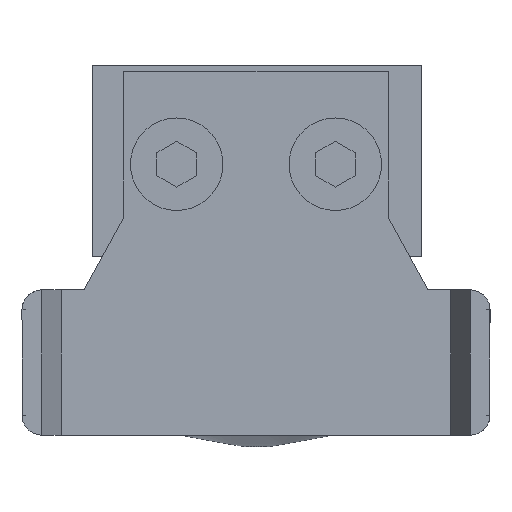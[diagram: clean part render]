
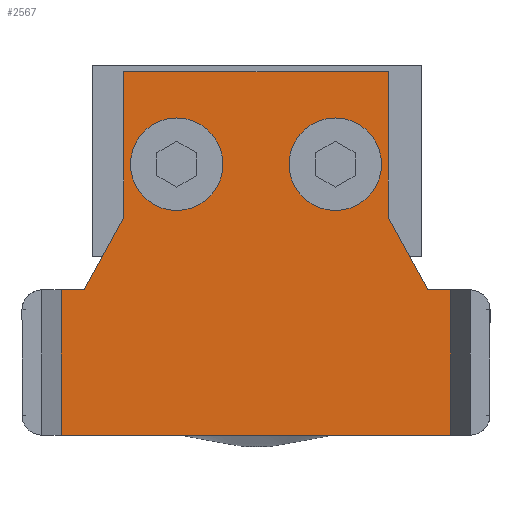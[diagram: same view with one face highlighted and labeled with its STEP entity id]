
A CAD part, left-side view. The second image highlights one B-rep face of the part: STEP entity #2567.
In plain terms, the highlighted planar face has unit normal (-1, 0, 0).
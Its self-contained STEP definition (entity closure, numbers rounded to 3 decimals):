
#35 = AXIS2_PLACEMENT_3D ( 'NONE', #3754, #4839, #3799 ) ;
#80 = DIRECTION ( 'NONE',  ( -1., 0., 0. ) ) ;
#142 = ORIENTED_EDGE ( 'NONE', *, *, #1404, .T. ) ;
#186 = LINE ( 'NONE', #2438, #2791 ) ;
#248 = EDGE_CURVE ( 'NONE', #6235, #1716, #6112, .T. ) ;
#391 = FACE_OUTER_BOUND ( 'NONE', #4153, .T. ) ;
#441 = DIRECTION ( 'NONE',  ( -1., 0., 0. ) ) ;
#461 = CARTESIAN_POINT ( 'NONE',  ( 4., 0., 14.744 ) ) ;
#558 = ORIENTED_EDGE ( 'NONE', *, *, #5215, .F. ) ;
#712 = CARTESIAN_POINT ( 'NONE',  ( 4., 9.5, 6. ) ) ;
#772 = EDGE_CURVE ( 'NONE', #4122, #966, #1483, .T. ) ;
#892 = VERTEX_POINT ( 'NONE', #3172 ) ;
#933 = CARTESIAN_POINT ( 'NONE',  ( 4., 16.5, -10. ) ) ;
#966 = VERTEX_POINT ( 'NONE', #4700 ) ;
#1008 = VERTEX_POINT ( 'NONE', #2702 ) ;
#1101 = DIRECTION ( 'NONE',  ( 0., 0.878, -0.479 ) ) ;
#1120 = ORIENTED_EDGE ( 'NONE', *, *, #6540, .T. ) ;
#1289 = DIRECTION ( 'NONE',  ( 0., -1., 0. ) ) ;
#1324 = DIRECTION ( 'NONE',  ( 0., 0., 1. ) ) ;
#1350 = DIRECTION ( 'NONE',  ( 0., 0., -1. ) ) ;
#1386 = VECTOR ( 'NONE', #2403, 1000. ) ;
#1391 = CARTESIAN_POINT ( 'NONE',  ( 4., 5.5, 10. ) ) ;
#1404 = EDGE_CURVE ( 'NONE', #5434, #1008, #6508, .T. ) ;
#1483 = LINE ( 'NONE', #5347, #4921 ) ;
#1527 = DIRECTION ( 'NONE',  ( 0., 1., 0. ) ) ;
#1598 = VECTOR ( 'NONE', #6843, 1000. ) ;
#1649 = DIRECTION ( 'NONE',  ( 0., 0., -1. ) ) ;
#1674 = PLANE ( 'NONE',  #2408 ) ;
#1702 = ORIENTED_EDGE ( 'NONE', *, *, #2985, .F. ) ;
#1716 = VERTEX_POINT ( 'NONE', #6134 ) ;
#1723 = CARTESIAN_POINT ( 'NONE',  ( 4., -11., 14.744 ) ) ;
#1969 = CIRCLE ( 'NONE', #3189, 3.5 ) ;
#2026 = DIRECTION ( 'NONE',  ( 0., 0., -1. ) ) ;
#2043 = ORIENTED_EDGE ( 'NONE', *, *, #2784, .F. ) ;
#2168 = VERTEX_POINT ( 'NONE', #6841 ) ;
#2173 = ORIENTED_EDGE ( 'NONE', *, *, #6023, .T. ) ;
#2291 = LINE ( 'NONE', #461, #6385 ) ;
#2309 = ORIENTED_EDGE ( 'NONE', *, *, #2441, .F. ) ;
#2403 = DIRECTION ( 'NONE',  ( 0., 0., -1. ) ) ;
#2408 = AXIS2_PLACEMENT_3D ( 'NONE', #2666, #2692, #1649 ) ;
#2424 = CARTESIAN_POINT ( 'NONE',  ( 4., -11., -14.744 ) ) ;
#2438 = CARTESIAN_POINT ( 'NONE',  ( 4., 5.5, -10. ) ) ;
#2441 = EDGE_CURVE ( 'NONE', #5944, #2168, #4485, .T. ) ;
#2567 = ADVANCED_FACE ( 'NONE', ( #391, #4982, #6575 ), #1674, .F. ) ;
#2666 = CARTESIAN_POINT ( 'NONE',  ( 4., 0., 0. ) ) ;
#2692 = DIRECTION ( 'NONE',  ( 1., 0., 0. ) ) ;
#2702 = CARTESIAN_POINT ( 'NONE',  ( 4., 0., -13. ) ) ;
#2784 = EDGE_CURVE ( 'NONE', #892, #4145, #5729, .T. ) ;
#2791 = VECTOR ( 'NONE', #1289, 1000. ) ;
#2985 = EDGE_CURVE ( 'NONE', #4145, #892, #1969, .T. ) ;
#3006 = EDGE_CURVE ( 'NONE', #5695, #5778, #4071, .T. ) ;
#3026 = EDGE_CURVE ( 'NONE', #6235, #3296, #3237, .T. ) ;
#3066 = CARTESIAN_POINT ( 'NONE',  ( 4., 16.5, 10. ) ) ;
#3141 = AXIS2_PLACEMENT_3D ( 'NONE', #5270, #441, #2026 ) ;
#3172 = CARTESIAN_POINT ( 'NONE',  ( 4., 9.5, -9.5 ) ) ;
#3189 = AXIS2_PLACEMENT_3D ( 'NONE', #6156, #6678, #1350 ) ;
#3215 = ORIENTED_EDGE ( 'NONE', *, *, #772, .F. ) ;
#3237 = LINE ( 'NONE', #6105, #6317 ) ;
#3296 = VERTEX_POINT ( 'NONE', #1723 ) ;
#3410 = DIRECTION ( 'NONE',  ( 0., 1., 0. ) ) ;
#3754 = CARTESIAN_POINT ( 'NONE',  ( 4., 9.5, -6. ) ) ;
#3799 = DIRECTION ( 'NONE',  ( 0., 0., -1. ) ) ;
#3850 = ORIENTED_EDGE ( 'NONE', *, *, #4672, .T. ) ;
#3904 = AXIS2_PLACEMENT_3D ( 'NONE', #712, #80, #4453 ) ;
#4045 = CARTESIAN_POINT ( 'NONE',  ( 4., 9.5, -2.5 ) ) ;
#4071 = LINE ( 'NONE', #4528, #1386 ) ;
#4122 = VERTEX_POINT ( 'NONE', #6699 ) ;
#4145 = VERTEX_POINT ( 'NONE', #4045 ) ;
#4153 = EDGE_LOOP ( 'NONE', ( #4726, #558, #3215, #2173, #1120, #6169, #3850, #142, #4736, #4588 ) ) ;
#4174 = DIRECTION ( 'NONE',  ( 0., -1., 0. ) ) ;
#4362 = EDGE_LOOP ( 'NONE', ( #2309, #6316 ) ) ;
#4429 = CARTESIAN_POINT ( 'NONE',  ( 4., 0., -14.744 ) ) ;
#4453 = DIRECTION ( 'NONE',  ( 0., 0., -1. ) ) ;
#4484 = EDGE_LOOP ( 'NONE', ( #2043, #1702 ) ) ;
#4485 = CIRCLE ( 'NONE', #3141, 3.5 ) ;
#4522 = EDGE_CURVE ( 'NONE', #2168, #5944, #4543, .T. ) ;
#4528 = CARTESIAN_POINT ( 'NONE',  ( 4., 16.5, -10. ) ) ;
#4543 = CIRCLE ( 'NONE', #3904, 3.5 ) ;
#4588 = ORIENTED_EDGE ( 'NONE', *, *, #248, .F. ) ;
#4672 = EDGE_CURVE ( 'NONE', #5778, #5434, #186, .T. ) ;
#4691 = LINE ( 'NONE', #6326, #1598 ) ;
#4700 = CARTESIAN_POINT ( 'NONE',  ( 4., 0., 14.744 ) ) ;
#4726 = ORIENTED_EDGE ( 'NONE', *, *, #3026, .T. ) ;
#4736 = ORIENTED_EDGE ( 'NONE', *, *, #6507, .F. ) ;
#4746 = CARTESIAN_POINT ( 'NONE',  ( 4., 9.5, 2.5 ) ) ;
#4838 = VERTEX_POINT ( 'NONE', #1391 ) ;
#4839 = DIRECTION ( 'NONE',  ( -1., 0., 0. ) ) ;
#4921 = VECTOR ( 'NONE', #5888, 1000. ) ;
#4924 = DIRECTION ( 'NONE',  ( 0., -0.878, -0.479 ) ) ;
#4982 = FACE_BOUND ( 'NONE', #4484, .T. ) ;
#5202 = LINE ( 'NONE', #5367, #6539 ) ;
#5215 = EDGE_CURVE ( 'NONE', #966, #3296, #2291, .T. ) ;
#5270 = CARTESIAN_POINT ( 'NONE',  ( 4., 9.5, 6. ) ) ;
#5327 = VECTOR ( 'NONE', #4924, 1000. ) ;
#5347 = CARTESIAN_POINT ( 'NONE',  ( 4., 0., 0. ) ) ;
#5357 = VECTOR ( 'NONE', #1527, 1000. ) ;
#5367 = CARTESIAN_POINT ( 'NONE',  ( 4., 5.5, 10. ) ) ;
#5434 = VERTEX_POINT ( 'NONE', #5481 ) ;
#5481 = CARTESIAN_POINT ( 'NONE',  ( 4., 5.5, -10. ) ) ;
#5673 = VECTOR ( 'NONE', #3410, 1000. ) ;
#5695 = VERTEX_POINT ( 'NONE', #3066 ) ;
#5729 = CIRCLE ( 'NONE', #35, 3.5 ) ;
#5778 = VERTEX_POINT ( 'NONE', #933 ) ;
#5888 = DIRECTION ( 'NONE',  ( 0., 0., 1. ) ) ;
#5944 = VERTEX_POINT ( 'NONE', #4746 ) ;
#6023 = EDGE_CURVE ( 'NONE', #4122, #4838, #5202, .T. ) ;
#6105 = CARTESIAN_POINT ( 'NONE',  ( 4., -11., 20. ) ) ;
#6112 = LINE ( 'NONE', #4429, #5673 ) ;
#6134 = CARTESIAN_POINT ( 'NONE',  ( 4., 0., -14.744 ) ) ;
#6156 = CARTESIAN_POINT ( 'NONE',  ( 4., 9.5, -6. ) ) ;
#6169 = ORIENTED_EDGE ( 'NONE', *, *, #3006, .T. ) ;
#6235 = VERTEX_POINT ( 'NONE', #2424 ) ;
#6316 = ORIENTED_EDGE ( 'NONE', *, *, #4522, .F. ) ;
#6317 = VECTOR ( 'NONE', #1324, 1000. ) ;
#6326 = CARTESIAN_POINT ( 'NONE',  ( 4., 0., 0. ) ) ;
#6385 = VECTOR ( 'NONE', #4174, 1000. ) ;
#6507 = EDGE_CURVE ( 'NONE', #1716, #1008, #4691, .T. ) ;
#6508 = LINE ( 'NONE', #6562, #5327 ) ;
#6539 = VECTOR ( 'NONE', #1101, 1000. ) ;
#6540 = EDGE_CURVE ( 'NONE', #4838, #5695, #6615, .T. ) ;
#6562 = CARTESIAN_POINT ( 'NONE',  ( 4., 0., -13. ) ) ;
#6575 = FACE_BOUND ( 'NONE', #4362, .T. ) ;
#6615 = LINE ( 'NONE', #6893, #5357 ) ;
#6678 = DIRECTION ( 'NONE',  ( -1., 0., 0. ) ) ;
#6699 = CARTESIAN_POINT ( 'NONE',  ( 4., 0., 13. ) ) ;
#6841 = CARTESIAN_POINT ( 'NONE',  ( 4., 9.5, 9.5 ) ) ;
#6843 = DIRECTION ( 'NONE',  ( 0., 0., 1. ) ) ;
#6893 = CARTESIAN_POINT ( 'NONE',  ( 4., 16.5, 10. ) ) ;
